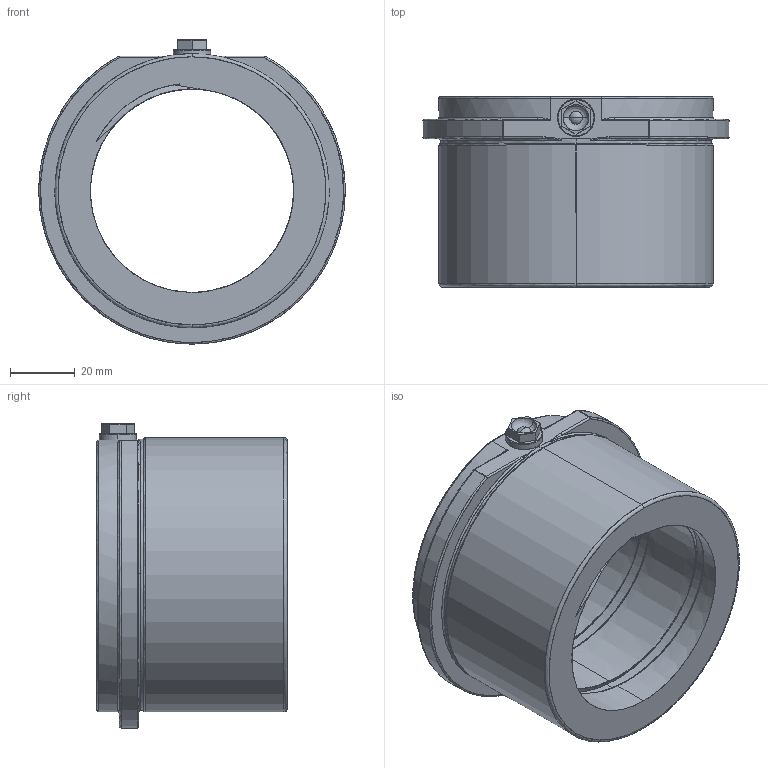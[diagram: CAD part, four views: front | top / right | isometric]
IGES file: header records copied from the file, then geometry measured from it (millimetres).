
Start section: SolidWorks IGES file using analytic representation for surfaces
Global section: file name: C:\Documents and Settings\kalite-mail\Desktop\HAZIR PARÇALAR\D24 Katý Model(son kontrolu yapýlacak)\D24 ÝGS\d24 63x46k.IGS; native system: SolidWorks 2008; preprocessor: SolidWorks 2008; author: kalite-mail; date: 080716.104249; units: millimetre
Bounding box: 94.95 x 59 x 94.25 mm (x, y, z)
Surface area: 37690.9 mm2 (no closed solid volume)
Topology: 0 solids, 0 shells, 86 faces, 1855 edges, 1845 vertices
Faces by surface type: revolution 43, bspline 43
